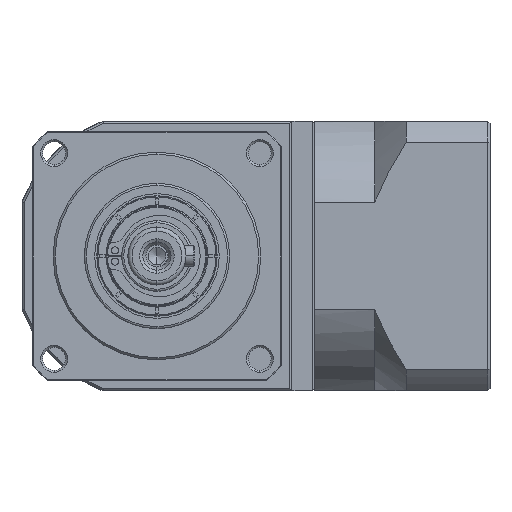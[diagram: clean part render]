
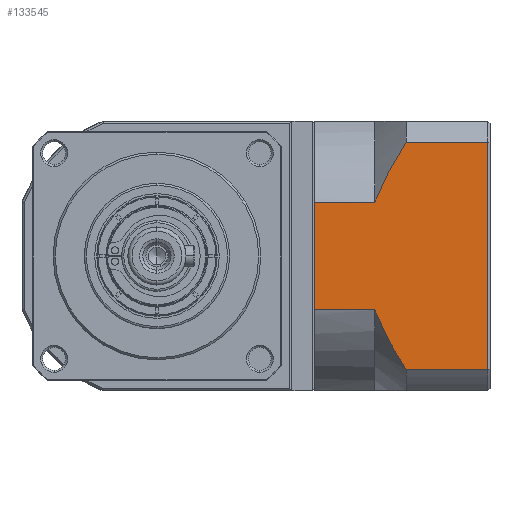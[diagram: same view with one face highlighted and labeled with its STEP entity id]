
A CAD part, left-side view. The second image highlights one B-rep face of the part: STEP entity #133545.
In plain terms, the highlighted planar face has unit normal (-1, 0, 0).
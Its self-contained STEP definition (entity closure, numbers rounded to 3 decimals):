
#239 = VECTOR ( 'NONE', #81111, 1000. ) ;
#2313 = AXIS2_PLACEMENT_3D ( 'NONE', #120156, #45978, #132593 ) ;
#3379 = EDGE_LOOP ( 'NONE', ( #148123, #74481, #46455, #4049, #31331, #85581, #72196, #142652 ) ) ;
#3794 = CARTESIAN_POINT ( 'NONE',  ( -16.223, -83.83, -143.095 ) ) ;
#4049 = ORIENTED_EDGE ( 'NONE', *, *, #54323, .T. ) ;
#4681 = CARTESIAN_POINT ( 'NONE',  ( -16.223, -82.458, -95.216 ) ) ;
#17128 = CARTESIAN_POINT ( 'NONE',  ( -16.223, -79.878, -99.997 ) ) ;
#22047 = DIRECTION ( 'NONE',  ( 0., 0., 1. ) ) ;
#22885 = LINE ( 'NONE', #64777, #121723 ) ;
#25691 = VERTEX_POINT ( 'NONE', #92704 ) ;
#27408 = DIRECTION ( 'NONE',  ( 0., 0., -1. ) ) ;
#29528 = CARTESIAN_POINT ( 'NONE',  ( -16.223, -77.791, -104.987 ) ) ;
#31331 = ORIENTED_EDGE ( 'NONE', *, *, #132215, .F. ) ;
#31583 = EDGE_CURVE ( 'NONE', #72121, #68090, #92201, .T. ) ;
#39187 = VERTEX_POINT ( 'NONE', #158325 ) ;
#40844 = EDGE_CURVE ( 'NONE', #62312, #138054, #22885, .T. ) ;
#45978 = DIRECTION ( 'NONE',  ( 1., 0., 0. ) ) ;
#46455 = ORIENTED_EDGE ( 'NONE', *, *, #92812, .F. ) ;
#46956 = CARTESIAN_POINT ( 'NONE',  ( -16.223, -85.291, -90.591 ) ) ;
#47053 = EDGE_CURVE ( 'NONE', #25691, #106964, #132100, .T. ) ;
#52982 = CARTESIAN_POINT ( 'NONE',  ( -16.223, -78.808, -133.51 ) ) ;
#53837 = CARTESIAN_POINT ( 'NONE',  ( -16.223, -84.558, -91.73 ) ) ;
#54323 = EDGE_CURVE ( 'NONE', #149499, #39187, #128615, .T. ) ;
#56001 = VECTOR ( 'NONE', #57286, 1000. ) ;
#57286 = DIRECTION ( 'NONE',  ( 0., 1., 0. ) ) ;
#59903 = LINE ( 'NONE', #119086, #56001 ) ;
#62312 = VERTEX_POINT ( 'NONE', #81364 ) ;
#62584 = PLANE ( 'NONE',  #2313 ) ;
#64777 = CARTESIAN_POINT ( 'NONE',  ( -16.223, -63.291, -150.478 ) ) ;
#65475 = CARTESIAN_POINT ( 'NONE',  ( -16.223, -79.932, -135.988 ) ) ;
#68090 = VERTEX_POINT ( 'NONE', #82442 ) ;
#68636 = CARTESIAN_POINT ( 'NONE',  ( -16.223, -77.791, -104.987 ) ) ;
#72121 = VERTEX_POINT ( 'NONE', #126799 ) ;
#72196 = ORIENTED_EDGE ( 'NONE', *, *, #93778, .F. ) ;
#74481 = ORIENTED_EDGE ( 'NONE', *, *, #31583, .T. ) ;
#77439 = CARTESIAN_POINT ( 'NONE',  ( -16.223, -78.03, -131.61 ) ) ;
#77968 = CARTESIAN_POINT ( 'NONE',  ( -16.223, -82.442, -140.781 ) ) ;
#78855 = CARTESIAN_POINT ( 'NONE',  ( -16.223, -83.843, -92.881 ) ) ;
#78985 = CARTESIAN_POINT ( 'NONE',  ( -16.223, -85.291, -145.364 ) ) ;
#79286 = VECTOR ( 'NONE', #130194, 1000. ) ;
#81111 = DIRECTION ( 'NONE',  ( 0., -1., 0. ) ) ;
#81364 = CARTESIAN_POINT ( 'NONE',  ( -16.223, -63.291, -104.987 ) ) ;
#82442 = CARTESIAN_POINT ( 'NONE',  ( -16.223, -104.991, -90.591 ) ) ;
#85581 = ORIENTED_EDGE ( 'NONE', *, *, #40844, .T. ) ;
#90371 = CARTESIAN_POINT ( 'NONE',  ( -16.223, -85.291, -145.364 ) ) ;
#91261 = CARTESIAN_POINT ( 'NONE',  ( -16.223, -81.788, -96.402 ) ) ;
#92201 = LINE ( 'NONE', #96203, #158037 ) ;
#92704 = CARTESIAN_POINT ( 'NONE',  ( -16.223, -77.791, -130.968 ) ) ;
#92812 = EDGE_CURVE ( 'NONE', #149499, #68090, #122486, .T. ) ;
#93490 = CARTESIAN_POINT ( 'NONE',  ( -16.223, -63.291, -130.968 ) ) ;
#93778 = EDGE_CURVE ( 'NONE', #25691, #138054, #116112, .T. ) ;
#96203 = CARTESIAN_POINT ( 'NONE',  ( -16.223, -104.991, -150.478 ) ) ;
#98052 = EDGE_CURVE ( 'NONE', #72121, #106964, #59903, .T. ) ;
#99025 = LINE ( 'NONE', #68636, #239 ) ;
#102314 = CARTESIAN_POINT ( 'NONE',  ( -16.223, -77.791, -130.968 ) ) ;
#103110 = FACE_OUTER_BOUND ( 'NONE', #3379, .T. ) ;
#103746 = CARTESIAN_POINT ( 'NONE',  ( -16.223, -78.733, -102.449 ) ) ;
#106964 = VERTEX_POINT ( 'NONE', #78985 ) ;
#107801 = DIRECTION ( 'NONE',  ( 0., -1., 0. ) ) ;
#116112 = LINE ( 'NONE', #117733, #79286 ) ;
#117733 = CARTESIAN_POINT ( 'NONE',  ( -16.223, -77.791, -130.968 ) ) ;
#119086 = CARTESIAN_POINT ( 'NONE',  ( -16.223, -77.791, -145.364 ) ) ;
#120156 = CARTESIAN_POINT ( 'NONE',  ( -16.223, -105.491, -150.478 ) ) ;
#121723 = VECTOR ( 'NONE', #27408, 1000. ) ;
#122486 = LINE ( 'NONE', #144633, #155312 ) ;
#126799 = CARTESIAN_POINT ( 'NONE',  ( -16.223, -104.991, -145.364 ) ) ;
#127264 = CARTESIAN_POINT ( 'NONE',  ( -16.223, -78.282, -132.249 ) ) ;
#128615 = B_SPLINE_CURVE_WITH_KNOTS ( 'NONE', 3,
 ( #140596, #53837, #78855, #4681, #91261, #17128, #103746, #29528 ),
 .UNSPECIFIED., .F., .F.,
 ( 4, 2, 2, 4 ),
 ( 0.058, 0.062, 0.066, 0.074 ),
 .UNSPECIFIED. ) ;
#130194 = DIRECTION ( 'NONE',  ( 0., 1., 0. ) ) ;
#132100 = B_SPLINE_CURVE_WITH_KNOTS ( 'NONE', 3,
 ( #102314, #77439, #127264, #52982, #139707, #65475, #152056, #77968, #3794, #90371 ),
 .UNSPECIFIED., .F., .F.,
 ( 4, 2, 2, 2, 4 ),
 ( 0.101, 0.103, 0.105, 0.109, 0.117 ),
 .UNSPECIFIED. ) ;
#132215 = EDGE_CURVE ( 'NONE', #62312, #39187, #99025, .T. ) ;
#132593 = DIRECTION ( 'NONE',  ( 0., 1., 0. ) ) ;
#133545 = ADVANCED_FACE ( 'NONE', ( #103110 ), #62584, .F. ) ;
#138054 = VERTEX_POINT ( 'NONE', #93490 ) ;
#139707 = CARTESIAN_POINT ( 'NONE',  ( -16.223, -79.082, -134.134 ) ) ;
#140596 = CARTESIAN_POINT ( 'NONE',  ( -16.223, -85.291, -90.591 ) ) ;
#142652 = ORIENTED_EDGE ( 'NONE', *, *, #47053, .T. ) ;
#144633 = CARTESIAN_POINT ( 'NONE',  ( -16.223, -77.791, -90.591 ) ) ;
#148123 = ORIENTED_EDGE ( 'NONE', *, *, #98052, .F. ) ;
#149499 = VERTEX_POINT ( 'NONE', #46956 ) ;
#152056 = CARTESIAN_POINT ( 'NONE',  ( -16.223, -80.537, -137.2 ) ) ;
#155312 = VECTOR ( 'NONE', #107801, 1000. ) ;
#158037 = VECTOR ( 'NONE', #22047, 1000. ) ;
#158325 = CARTESIAN_POINT ( 'NONE',  ( -16.223, -77.791, -104.987 ) ) ;
